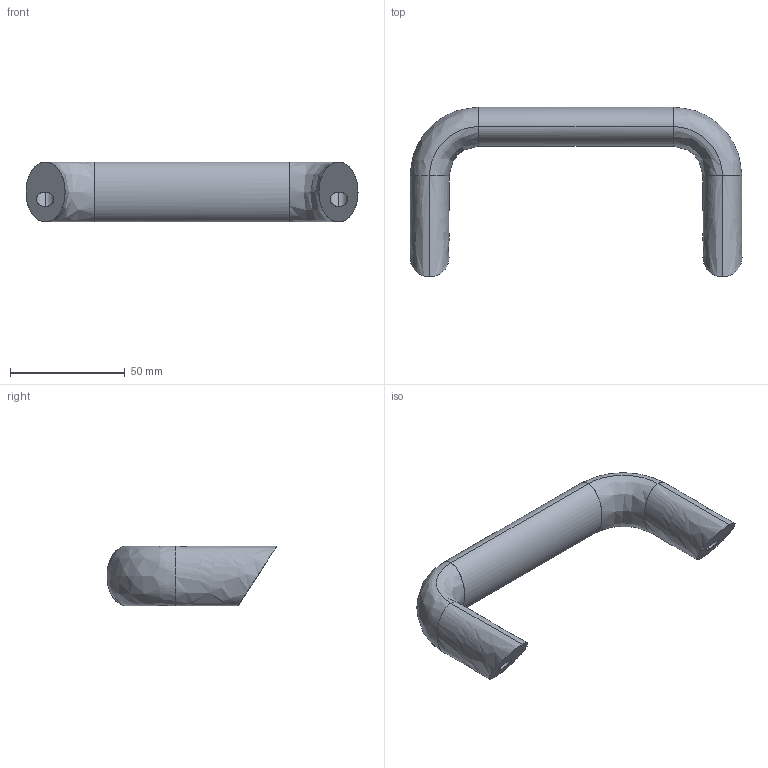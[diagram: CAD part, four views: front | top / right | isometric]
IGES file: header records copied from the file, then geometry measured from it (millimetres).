
Start section: SolidWorks IGES file using analytic representation for surfaces
Bounding box: 144.6 x 73.99 x 26 mm (x, y, z)
Surface area: 16632.4 mm2 (no closed solid volume)
Topology: 0 solids, 0 shells, 18 faces, 356 edges, 356 vertices
Faces by surface type: bspline 14, revolution 4
